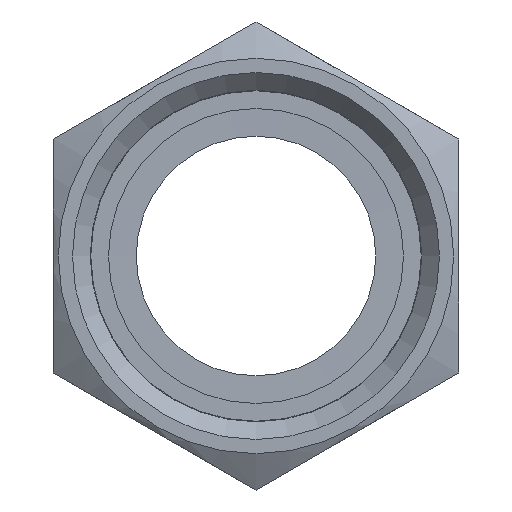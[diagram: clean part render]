
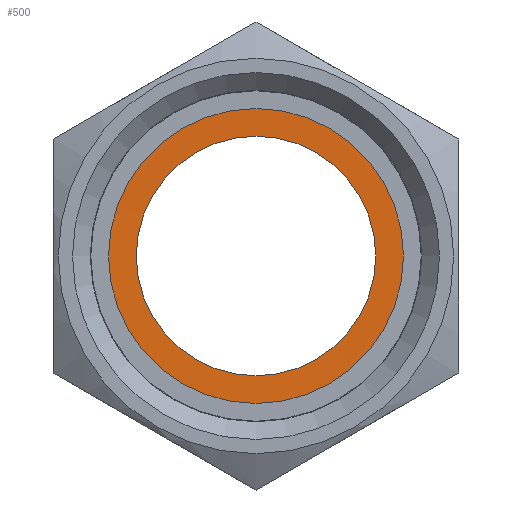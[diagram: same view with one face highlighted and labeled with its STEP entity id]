
A CAD part, front view. The second image highlights one B-rep face of the part: STEP entity #500.
In plain terms, the highlighted conical face has half-angle 89.398 degrees and reference radius 5.965 mm.
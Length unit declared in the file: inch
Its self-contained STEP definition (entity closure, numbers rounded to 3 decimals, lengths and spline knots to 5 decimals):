
#75=FACE_OUTER_BOUND('',#109,.T.);
#109=EDGE_LOOP('',(#394,#395,#396,#397,#398,#399));
#137=LINE('',#839,#157);
#157=VECTOR('',#690,0.23485);
#175=CIRCLE('',#541,0.203);
#176=CIRCLE('',#542,0.203);
#193=CIRCLE('',#568,0.2667);
#194=CIRCLE('',#569,0.2667);
#215=VERTEX_POINT('',#783);
#216=VERTEX_POINT('',#784);
#233=VERTEX_POINT('',#833);
#234=VERTEX_POINT('',#834);
#268=EDGE_CURVE('',#215,#216,#175,.T.);
#270=EDGE_CURVE('',#216,#215,#176,.T.);
#291=EDGE_CURVE('',#233,#234,#193,.T.);
#292=EDGE_CURVE('',#234,#233,#194,.T.);
#294=EDGE_CURVE('',#234,#216,#137,.T.);
#394=ORIENTED_EDGE('',*,*,#291,.T.);
#395=ORIENTED_EDGE('',*,*,#294,.T.);
#396=ORIENTED_EDGE('',*,*,#268,.F.);
#397=ORIENTED_EDGE('',*,*,#270,.F.);
#398=ORIENTED_EDGE('',*,*,#294,.F.);
#399=ORIENTED_EDGE('',*,*,#292,.T.);
#484=CONICAL_SURFACE('',#570,0.23485,1.56);
#500=ADVANCED_FACE('',(#75),#484,.F.);
#541=AXIS2_PLACEMENT_3D('',#785,#624,#625);
#542=AXIS2_PLACEMENT_3D('',#787,#627,#628);
#568=AXIS2_PLACEMENT_3D('',#835,#683,#684);
#569=AXIS2_PLACEMENT_3D('',#836,#685,#686);
#570=AXIS2_PLACEMENT_3D('',#838,#688,#689);
#624=DIRECTION('center_axis',(0.,-1.,0.));
#625=DIRECTION('ref_axis',(1.,0.,0.));
#627=DIRECTION('center_axis',(0.,-1.,0.));
#628=DIRECTION('ref_axis',(1.,0.,0.));
#683=DIRECTION('center_axis',(0.,-1.,0.));
#684=DIRECTION('ref_axis',(1.,0.,0.));
#685=DIRECTION('center_axis',(0.,-1.,0.));
#686=DIRECTION('ref_axis',(1.,0.,0.));
#688=DIRECTION('center_axis',(0.,-1.,0.));
#689=DIRECTION('ref_axis',(0.,0.,-1.));
#690=DIRECTION('',(0.,0.011,-1.));
#783=CARTESIAN_POINT('',(0.,0.,-0.203));
#784=CARTESIAN_POINT('',(0.,0.,0.203));
#785=CARTESIAN_POINT('Origin',(0.,0.,0.));
#787=CARTESIAN_POINT('Origin',(0.,0.,0.));
#833=CARTESIAN_POINT('',(0.,-0.00067,-0.2667));
#834=CARTESIAN_POINT('',(0.,-0.00067,0.2667));
#835=CARTESIAN_POINT('Origin',(0.,-0.00067,0.));
#836=CARTESIAN_POINT('Origin',(0.,-0.00067,0.));
#838=CARTESIAN_POINT('Origin',(0.,-0.00033,0.));
#839=CARTESIAN_POINT('',(0.,-0.00033,0.23485));
